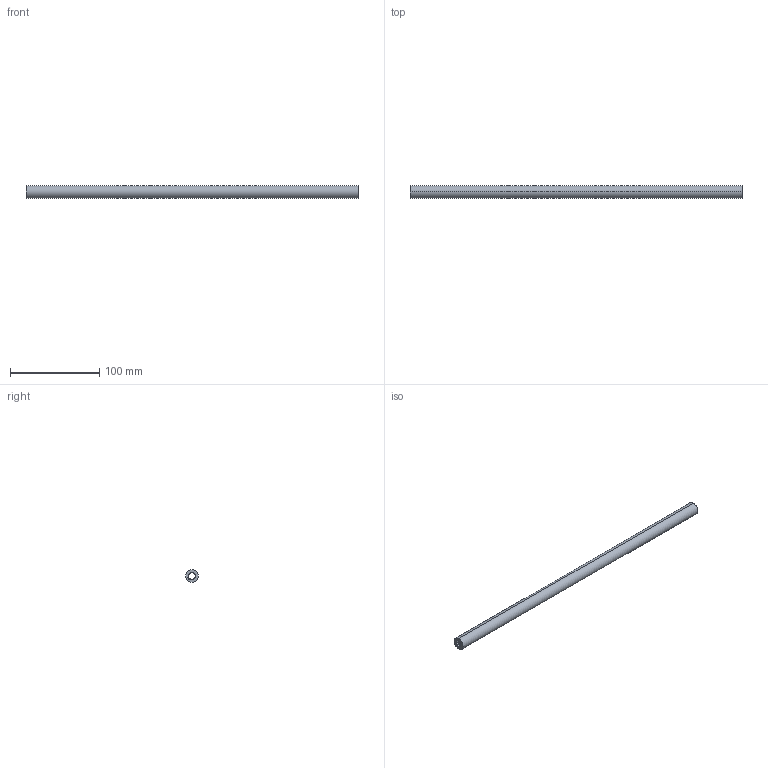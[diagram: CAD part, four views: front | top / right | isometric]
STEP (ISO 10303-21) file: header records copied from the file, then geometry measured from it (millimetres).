
FILE_DESCRIPTION (( 'STEP AP214' ), '1' );
FILE_NAME ('SyncronisationsstangeXP_KAB_500_16.step', '2009-11-24T08:53:23', ( 'Grass' ), ( 'Grass GmbH' ), 'SwSTEP 2.0', 'SolidWorks 2009', '' );
FILE_SCHEMA (( 'AUTOMOTIVE_DESIGN' ));
Length unit declared in the file: millimetre
Products named in the file (1): SyncronisationsstangeXP_KAB_500_16
Bounding box: 371 x 14 x 14 mm (x, y, z)
Volume: 40116.1 mm3; surface area: 25987.1 mm2
Topology: 1 solids, 1 shells, 15 faces, 39 edges, 26 vertices
Faces by surface type: cylinder 11, plane 4
Entity records: 513 total; most frequent: DIRECTION 93, CARTESIAN_POINT 81, ORIENTED_EDGE 78, EDGE_CURVE 39, AXIS2_PLACEMENT_3D 38, VERTEX_POINT 26, CIRCLE 22, VECTOR 17
